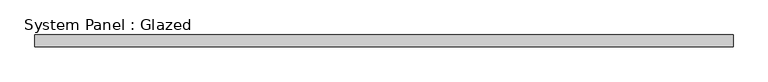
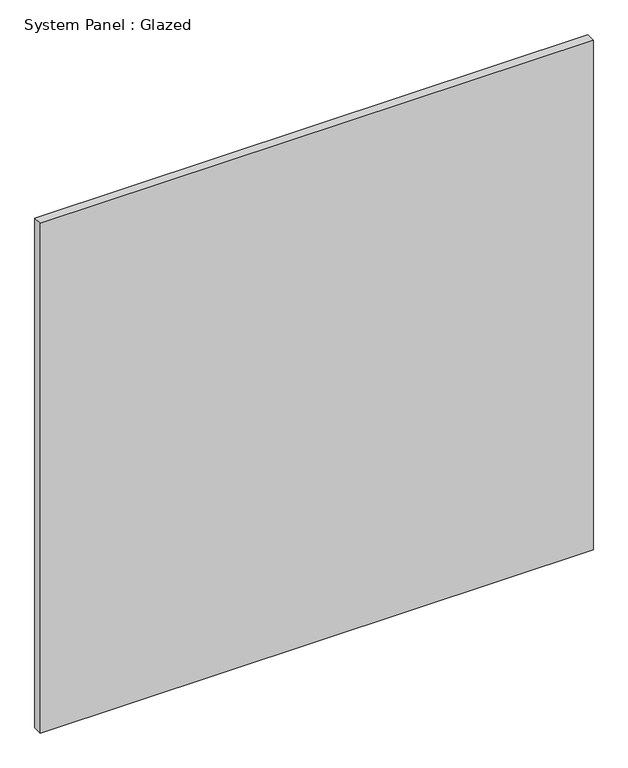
"""IFC4 building model written with IfcOpenShell, lengths in millimetres: plate geometry, System Panel : Glazed."""

from ifc_helpers import new_model, si_unit, origin, origin_with_axes, place, context, project, spatial, polyline, outline, extrude, source, transform, mapped, element, save


def system_panel_glazed_753062c8(model_context):
    return source(origin(), model_context, "Body", "SweptSolid", [
        extrude(outline(polyline([(736.9999999, -49.5), (-736.9999999, -49.5), (-736.9999999, -24.5), (736.9999999, -24.5), (736.9999999, -49.5)])), origin_with_axes(), (0.0, 0.0, 1.0), 1435.6),
    ])


if __name__ == "__main__":
    model = new_model("IFC4")
    model_context = context("Model", 3, world=origin())
    ifc_project = project(units=[si_unit("LENGTHUNIT", "METRE", prefix="MILLI")], contexts=[model_context])
    site = spatial("IfcSite", under=ifc_project)
    building = spatial("IfcBuilding", under=site)
    placement = place(None, origin())
    system_panel_glazed_shape = system_panel_glazed_753062c8(model_context)
    element("IfcPlate", 1, ObjectType="System Panel : Glazed", at=placement, inside=building, context=model_context, shape_type="MappedRepresentation", body=[
        mapped(system_panel_glazed_shape, transform((0.0, 0.0, 0.0), x_axis=(1.0, 0.0, 0.0), y_axis=(0.0, 1.0, 0.0), z_axis=(0.0, 0.0, 1.0))),
    ])
    save(model, "model.ifc")
